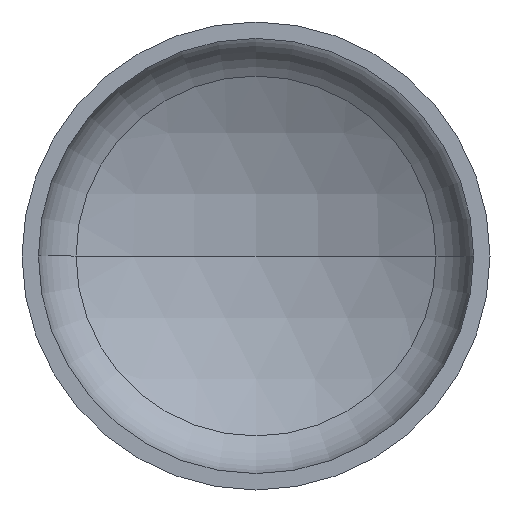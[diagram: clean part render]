
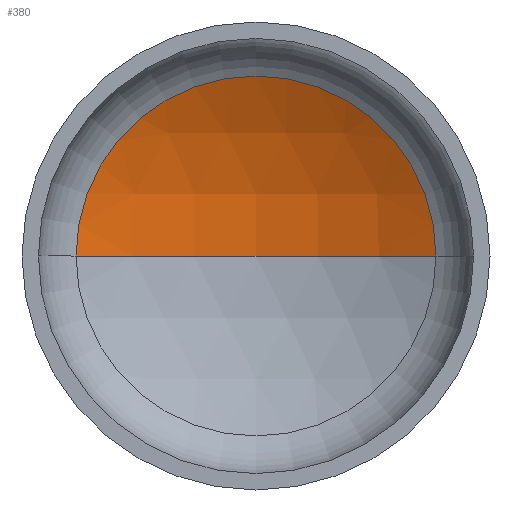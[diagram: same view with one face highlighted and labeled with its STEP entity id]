
A CAD part, front view. The second image highlights one B-rep face of the part: STEP entity #380.
In plain terms, the highlighted spherical face has radius 1600 mm.
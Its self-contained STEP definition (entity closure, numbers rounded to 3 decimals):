
#1 = AXIS2_PLACEMENT_3D ( 'NONE', #407, #93, #260 ) ;
#5 = AXIS2_PLACEMENT_3D ( 'NONE', #125, #312, #313 ) ;
#13 = EDGE_LOOP ( 'NONE', ( #82, #133, #64 ) ) ;
#27 = AXIS2_PLACEMENT_3D ( 'NONE', #381, #194, #171 ) ;
#32 = VERTEX_POINT ( 'NONE', #248 ) ;
#64 = ORIENTED_EDGE ( 'NONE', *, *, #329, .T. ) ;
#76 = SPHERICAL_SURFACE ( 'NONE', #349, 1600. ) ;
#82 = ORIENTED_EDGE ( 'NONE', *, *, #379, .F. ) ;
#88 = VERTEX_POINT ( 'NONE', #245 ) ;
#90 = CARTESIAN_POINT ( 'NONE',  ( 0., -1011.238, 0. ) ) ;
#93 = DIRECTION ( 'NONE',  ( 0., 0., -1. ) ) ;
#96 = FACE_OUTER_BOUND ( 'NONE', #13, .T. ) ;
#125 = CARTESIAN_POINT ( 'NONE',  ( 0., -1011.238, 0. ) ) ;
#133 = ORIENTED_EDGE ( 'NONE', *, *, #384, .T. ) ;
#148 = VERTEX_POINT ( 'NONE', #298 ) ;
#166 = DIRECTION ( 'NONE',  ( -1., 0., 0. ) ) ;
#171 = DIRECTION ( 'NONE',  ( 1., 0., 0. ) ) ;
#194 = DIRECTION ( 'NONE',  ( 0., -1., 0. ) ) ;
#205 = CIRCLE ( 'NONE', #27, 768.992 ) ;
#245 = CARTESIAN_POINT ( 'NONE',  ( -768.992, 391.848, 0. ) ) ;
#248 = CARTESIAN_POINT ( 'NONE',  ( 768.992, 391.848, 0. ) ) ;
#252 = CIRCLE ( 'NONE', #5, 1600. ) ;
#260 = DIRECTION ( 'NONE',  ( -1., 0., 0. ) ) ;
#298 = CARTESIAN_POINT ( 'NONE',  ( 0., 588.762, 0. ) ) ;
#312 = DIRECTION ( 'NONE',  ( 0., 0., 1. ) ) ;
#313 = DIRECTION ( 'NONE',  ( 1., 0., 0. ) ) ;
#329 = EDGE_CURVE ( 'NONE', #32, #88, #205, .T. ) ;
#343 = DIRECTION ( 'NONE',  ( 0., 0., -1. ) ) ;
#349 = AXIS2_PLACEMENT_3D ( 'NONE', #90, #343, #166 ) ;
#372 = CIRCLE ( 'NONE', #1, 1600. ) ;
#379 = EDGE_CURVE ( 'NONE', #148, #88, #252, .T. ) ;
#380 = ADVANCED_FACE ( 'NONE', ( #96 ), #76, .F. ) ;
#381 = CARTESIAN_POINT ( 'NONE',  ( 0., 391.848, 0. ) ) ;
#384 = EDGE_CURVE ( 'NONE', #148, #32, #372, .T. ) ;
#407 = CARTESIAN_POINT ( 'NONE',  ( 0., -1011.238, 0. ) ) ;
